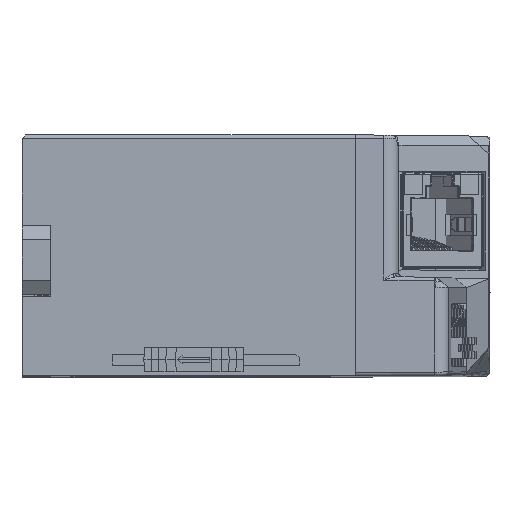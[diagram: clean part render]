
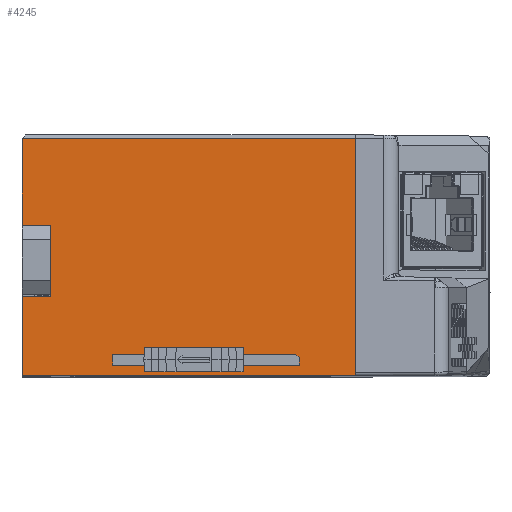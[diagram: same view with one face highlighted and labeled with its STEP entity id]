
A CAD part, top view. The second image highlights one B-rep face of the part: STEP entity #4245.
In plain terms, the highlighted planar face has unit normal (0, 0, 1).
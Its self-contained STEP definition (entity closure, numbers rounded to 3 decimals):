
#698=FACE_BOUND('',#8367,.T.);
#699=FACE_BOUND('',#8368,.T.);
#2351=PLANE('',#37625);
#4245=ADVANCED_FACE('',(#698,#699),#2351,.T.);
#8367=EDGE_LOOP('',(#24867,#24868,#24869,#24870,#24871,#24872,#24873,#24874,
#24875));
#8368=EDGE_LOOP('',(#24876,#24877,#24878,#24879,#24880,#24881,#24882));
#11824=LINE('',#58747,#15943);
#11825=LINE('',#58750,#15944);
#11826=LINE('',#58752,#15945);
#11827=LINE('',#58754,#15946);
#11828=LINE('',#58756,#15947);
#11829=LINE('',#58758,#15948);
#11830=LINE('',#58760,#15949);
#11831=LINE('',#58762,#15950);
#11832=LINE('',#58764,#15951);
#11833=LINE('',#58765,#15952);
#11834=LINE('',#58768,#15953);
#11835=LINE('',#58770,#15954);
#11836=LINE('',#58772,#15955);
#11837=LINE('',#58774,#15956);
#11838=LINE('',#58776,#15957);
#11839=LINE('',#58778,#15958);
#15943=VECTOR('',#45127,1.);
#15944=VECTOR('',#45128,1.);
#15945=VECTOR('',#45129,1.);
#15946=VECTOR('',#45130,1.);
#15947=VECTOR('',#45131,1.);
#15948=VECTOR('',#45132,1.);
#15949=VECTOR('',#45133,1.);
#15950=VECTOR('',#45134,1.);
#15951=VECTOR('',#45135,1.);
#15952=VECTOR('',#45136,1.);
#15953=VECTOR('',#45137,1.);
#15954=VECTOR('',#45138,1.);
#15955=VECTOR('',#45139,1.);
#15956=VECTOR('',#45140,1.);
#15957=VECTOR('',#45141,1.);
#15958=VECTOR('',#45142,1.);
#24867=ORIENTED_EDGE('',*,*,#34351,.T.);
#24868=ORIENTED_EDGE('',*,*,#34352,.T.);
#24869=ORIENTED_EDGE('',*,*,#34353,.F.);
#24870=ORIENTED_EDGE('',*,*,#34354,.T.);
#24871=ORIENTED_EDGE('',*,*,#34355,.T.);
#24872=ORIENTED_EDGE('',*,*,#34356,.F.);
#24873=ORIENTED_EDGE('',*,*,#34357,.T.);
#24874=ORIENTED_EDGE('',*,*,#34358,.T.);
#24875=ORIENTED_EDGE('',*,*,#34359,.F.);
#24876=ORIENTED_EDGE('',*,*,#34360,.T.);
#24877=ORIENTED_EDGE('',*,*,#34361,.F.);
#24878=ORIENTED_EDGE('',*,*,#34362,.F.);
#24879=ORIENTED_EDGE('',*,*,#34363,.T.);
#24880=ORIENTED_EDGE('',*,*,#34364,.T.);
#24881=ORIENTED_EDGE('',*,*,#34365,.T.);
#24882=ORIENTED_EDGE('',*,*,#34366,.T.);
#29709=VERTEX_POINT('',#58748);
#29710=VERTEX_POINT('',#58749);
#29711=VERTEX_POINT('',#58751);
#29712=VERTEX_POINT('',#58753);
#29713=VERTEX_POINT('',#58755);
#29714=VERTEX_POINT('',#58757);
#29715=VERTEX_POINT('',#58759);
#29716=VERTEX_POINT('',#58761);
#29717=VERTEX_POINT('',#58763);
#29718=VERTEX_POINT('',#58766);
#29719=VERTEX_POINT('',#58767);
#29720=VERTEX_POINT('',#58769);
#29721=VERTEX_POINT('',#58771);
#29722=VERTEX_POINT('',#58773);
#29723=VERTEX_POINT('',#58775);
#29724=VERTEX_POINT('',#58777);
#34351=EDGE_CURVE('',#29709,#29710,#11824,.T.);
#34352=EDGE_CURVE('',#29710,#29711,#11825,.T.);
#34353=EDGE_CURVE('',#29712,#29711,#11826,.T.);
#34354=EDGE_CURVE('',#29712,#29713,#11827,.T.);
#34355=EDGE_CURVE('',#29713,#29714,#11828,.T.);
#34356=EDGE_CURVE('',#29715,#29714,#11829,.T.);
#34357=EDGE_CURVE('',#29715,#29716,#11830,.T.);
#34358=EDGE_CURVE('',#29716,#29717,#11831,.T.);
#34359=EDGE_CURVE('',#29709,#29717,#11832,.T.);
#34360=EDGE_CURVE('',#29718,#29719,#11833,.T.);
#34361=EDGE_CURVE('',#29720,#29719,#11834,.T.);
#34362=EDGE_CURVE('',#29721,#29720,#11835,.T.);
#34363=EDGE_CURVE('',#29721,#29722,#11836,.T.);
#34364=EDGE_CURVE('',#29722,#29723,#11837,.T.);
#34365=EDGE_CURVE('',#29723,#29724,#11838,.T.);
#34366=EDGE_CURVE('',#29724,#29718,#11839,.T.);
#37625=AXIS2_PLACEMENT_3D('',#58779,#45143,#45144);
#45127=DIRECTION('',(0.,1.,0.));
#45128=DIRECTION('',(-1.,0.,0.));
#45129=DIRECTION('',(0.017,1.,0.));
#45130=DIRECTION('',(0.,-1.,0.));
#45131=DIRECTION('',(1.,0.,0.));
#45132=DIRECTION('',(0.,1.,0.));
#45133=DIRECTION('',(-1.,0.,0.));
#45134=DIRECTION('',(0.,-1.,0.));
#45135=DIRECTION('',(-1.,0.,0.));
#45136=DIRECTION('',(-1.,0.,0.));
#45137=DIRECTION('',(0.017,-1.,0.));
#45138=DIRECTION('',(-0.017,-1.,0.));
#45139=DIRECTION('',(1.,0.,0.));
#45140=DIRECTION('',(0.707,-0.707,0.));
#45141=DIRECTION('',(0.017,-1.,0.));
#45142=DIRECTION('',(-0.017,-1.,0.));
#45143=DIRECTION('',(0.,0.,1.));
#45144=DIRECTION('',(-1.,0.,0.));
#58747=CARTESIAN_POINT('',(-247.544,-88.239,278.694));
#58748=CARTESIAN_POINT('',(-247.544,-88.239,278.694));
#58749=CARTESIAN_POINT('',(-247.544,-54.739,278.694));
#58750=CARTESIAN_POINT('',(-294.544,-54.739,278.694));
#58751=CARTESIAN_POINT('',(-294.526,-54.739,278.694));
#58752=CARTESIAN_POINT('',(-295.161,-91.134,278.694));
#58753=CARTESIAN_POINT('',(-294.544,-55.739,278.694));
#58754=CARTESIAN_POINT('',(-294.544,-55.739,278.694));
#58755=CARTESIAN_POINT('',(-294.544,-66.989,278.694));
#58756=CARTESIAN_POINT('',(-294.544,-66.989,278.694));
#58757=CARTESIAN_POINT('',(-290.544,-66.989,278.694));
#58758=CARTESIAN_POINT('',(-290.544,-91.625,278.694));
#58759=CARTESIAN_POINT('',(-290.544,-76.989,278.694));
#58760=CARTESIAN_POINT('',(-290.544,-76.989,278.694));
#58761=CARTESIAN_POINT('',(-294.544,-76.989,278.694));
#58762=CARTESIAN_POINT('',(-294.544,-76.989,278.694));
#58763=CARTESIAN_POINT('',(-294.544,-88.239,278.694));
#58764=CARTESIAN_POINT('',(-247.544,-88.239,278.694));
#58765=CARTESIAN_POINT('',(-247.544,-86.739,278.694));
#58766=CARTESIAN_POINT('',(-255.458,-86.739,278.694));
#58767=CARTESIAN_POINT('',(-281.73,-86.739,278.694));
#58768=CARTESIAN_POINT('',(-281.744,-85.939,278.694));
#58769=CARTESIAN_POINT('',(-281.744,-85.939,278.694));
#58770=CARTESIAN_POINT('',(-281.744,-85.939,278.694));
#58771=CARTESIAN_POINT('',(-281.73,-85.139,278.694));
#58772=CARTESIAN_POINT('',(-247.544,-85.139,278.694));
#58773=CARTESIAN_POINT('',(-255.924,-85.139,278.694));
#58774=CARTESIAN_POINT('',(-266.434,-74.63,278.694));
#58775=CARTESIAN_POINT('',(-255.449,-85.614,278.694));
#58776=CARTESIAN_POINT('',(-255.968,-55.886,278.694));
#58777=CARTESIAN_POINT('',(-255.444,-85.939,278.694));
#58778=CARTESIAN_POINT('',(-254.914,-55.61,278.694));
#58779=CARTESIAN_POINT('',(-267.044,-91.625,278.694));
